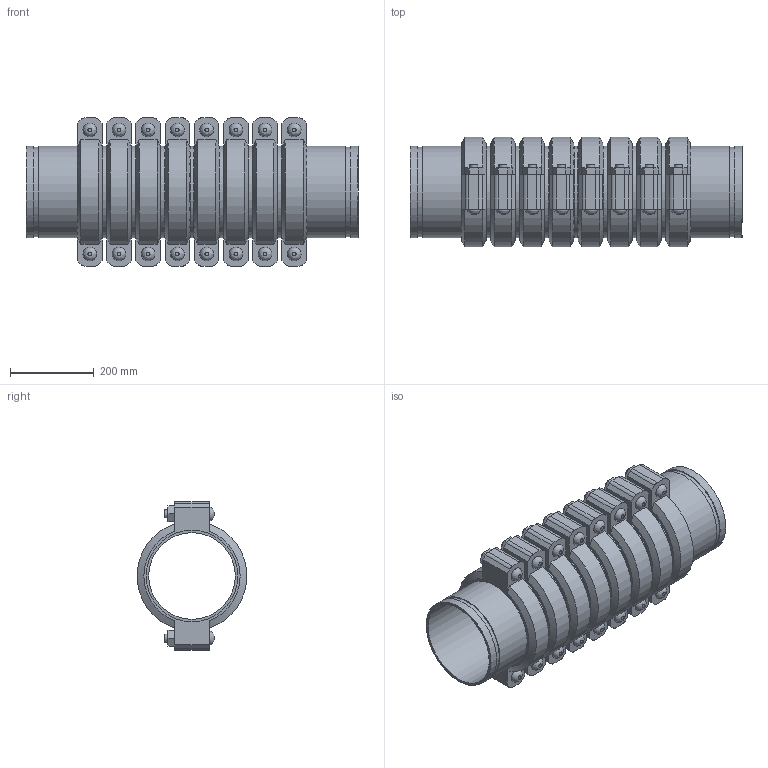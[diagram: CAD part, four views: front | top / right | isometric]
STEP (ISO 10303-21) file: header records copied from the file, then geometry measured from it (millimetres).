
FILE_DESCRIPTION(/* description */ ('VIC SS EXPANSION JOINT 8 COUPLINGS COMPRESSED STYLE 155P (OGS) (POTABLE WATER) ','CAx-IF Rec.Pracs.---Representation and Presentation of Product Manufacturing Information (PMI)---4.0---2014-10-13'),/* implementation_level */ '2;1');
FILE_NAME(/* name */ 'C:\Users\kkamble\AppData\Roaming\Autodesk\ApplicationPlugins\Victaulic.Temp\A39\Victaulic_SS_Expansion Joint_Compressed_8 Couplings_Style 155P (OGS)-Potable Water_8 Coup_Comp_8 (200).stp',/* time_stamp */ '2021-07-16T17:17:30+06:00',/* author */ ('kkamble'),/* organization */ ('Victaulic'),/* preprocessor_version */ 'ST-DEVELOPER v17.2',/* originating_system */ 'Autodesk Inventor 2019',/* authorisation */ '');
FILE_SCHEMA (('AP242_MANAGED_MODEL_BASED_3D_ENGINEERING_MIM_LF { 1 0 10303 442 1 1 4 }'));
Length unit declared in the file: inch
Products named in the file (4): 155P-08.0; Nipple-08.0; Nipple-08.0_1; 075-08.0
Assembly tree (17 placements, depth 2):
  155P-08.0
    Nipple-08.0  x2
    Nipple-08.0_1  x7
    075-08.0  x8
Bounding box: 793.75 x 261.72 x 354.84 mm (x, y, z)
Volume: 13946815 mm3; surface area: 2526738.4 mm2
Topology: 17 solids, 33 shells, 532 faces, 1286 edges, 904 vertices
Faces by surface type: plane 326, cylinder 158, cone 32, bspline 16
Full cylindrical faces by diameter (mm): 19.05 x32, 21.209 x16, 206.985 x9, 214.401 x18, 219.075 x35
Entity records: 2737 total; most frequent: CARTESIAN_POINT 487, DIRECTION 459, ORIENTED_EDGE 374, EDGE_CURVE 187, AXIS2_PLACEMENT_3D 184, VERTEX_POINT 134, EDGE_LOOP 101, LINE 91
